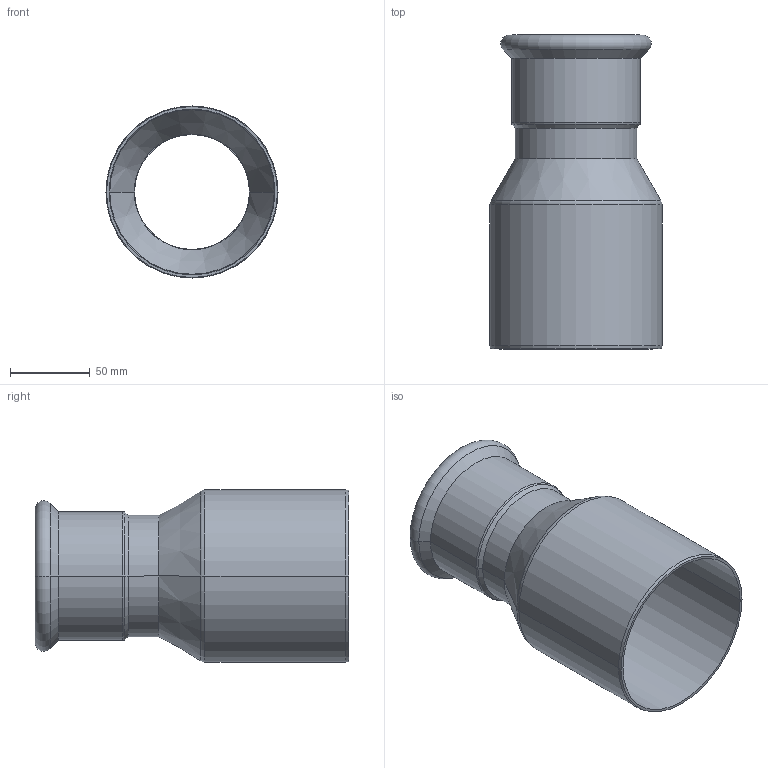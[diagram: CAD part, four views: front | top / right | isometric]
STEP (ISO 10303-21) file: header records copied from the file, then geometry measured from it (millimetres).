
FILE_DESCRIPTION(('CoCreate Modeling STEP Export'),'2;1');
FILE_NAME('C1407 76.1x108.stp','2014-11-07T16:38:45',(''),(''),'CoCreate Modeling STEP processor for AP214 (Solid Model)','CoCreate Modeling 17.00A 17-Jun-2010 (C) Parametric Technology GmbH','');
FILE_SCHEMA(('AUTOMOTIVE_DESIGN { 1 0 10303 214 1 1 1 1 }'));
Length unit declared in the file: millimetre
Products named in the file (2): C1407_76x108
Assembly tree (1 placements, depth 2):
  C1407_76x108
    C1407_76x108
Bounding box: 108 x 197 x 108 mm (x, y, z)
Volume: 133281.7 mm3; surface area: 121404.5 mm2
Topology: 1 solids, 1 shells, 39 faces, 80 edges, 46 vertices
Faces by surface type: cylinder 16, cone 10, torus 8, plane 5
Entity records: 876 total; most frequent: ORIENTED_EDGE 160, DIRECTION 134, CARTESIAN_POINT 126, EDGE_CURVE 80, AXIS2_PLACEMENT_3D 54, VERTEX_POINT 46, EDGE_LOOP 44, FACE_OUTER_BOUND 39
